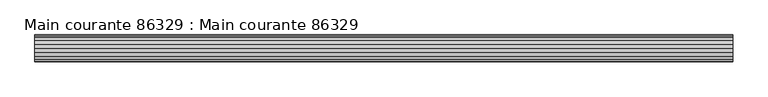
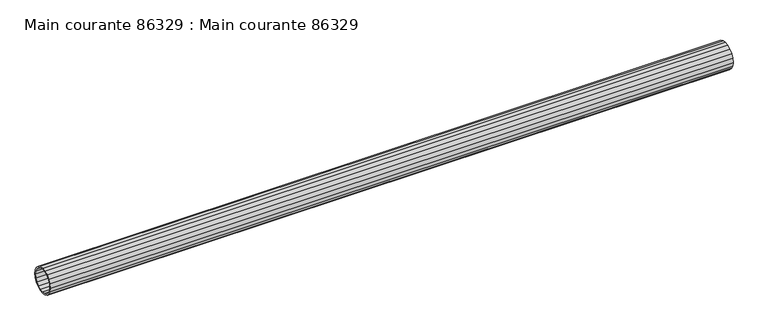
"""IFC4 building model written with IfcOpenShell, lengths in millimetres: beam geometry, Main courante 86329 : Main courante 86329."""

from ifc_helpers import new_model, si_unit, frame, origin, place, context, project, spatial, polyline, outline, extrude, source, transform, mapped, element, save


def main_courante_86329_main_courante_86329_4c8f75e1(model_context):
    return source(origin(), model_context, "Body", "SweptSolid", [
        extrude(outline(polyline([(-24939.3127604, 8787.9680149), (-24931.85, 8789.15), (-24924.3872396, 8787.9680149), (-24917.6549862, 8784.5377604), (-24912.3122396, 8779.1950138), (-24908.8819851, 8772.4627604), (-24907.7, 8765.0), (-24908.8819851, 8757.5372396), (-24912.3122396, 8750.8049862), (-24917.6549862, 8745.4622396), (-24924.3872396, 8742.0319851), (-24931.85, 8740.85), (-24939.3127604, 8742.0319851), (-24946.0450138, 8745.4622396), (-24951.3877604, 8750.8049862), (-24954.8180149, 8757.5372396), (-24956.0, 8765.0), (-24954.8180149, 8772.4627604), (-24951.3877604, 8779.1950138), (-24946.0450138, 8784.5377604), (-24939.3127604, 8787.9680149)]), holes=[polyline([(-24953.5, 8765.0), (-24952.4403736, 8758.3097821), (-24949.3652179, 8752.2744493), (-24944.5755507, 8747.4847821), (-24938.5402179, 8744.4096264), (-24931.85, 8743.35), (-24925.1597821, 8744.4096264), (-24919.1244493, 8747.4847821), (-24914.3347821, 8752.2744493), (-24911.2596264, 8758.3097821), (-24910.2, 8765.0), (-24911.2596264, 8771.6902179), (-24914.3347821, 8777.7255507), (-24919.1244493, 8782.5152179), (-24925.1597821, 8785.5903736), (-24931.85, 8786.65), (-24938.5402179, 8785.5903736), (-24944.5755507, 8782.5152179), (-24949.3652179, 8777.7255507), (-24952.4403736, 8771.6902179), (-24953.5, 8765.0)])]), frame((11539.2815707, 0.0, 0.0), z_axis=(1.0, 0.0, 0.0), x_axis=(0.0, 1.0, 0.0)), (0.0, 0.0, 1.0), 1249.7184292),
    ])


if __name__ == "__main__":
    model = new_model("IFC4")
    model_context = context("Model", 3, world=origin())
    ifc_project = project(units=[si_unit("LENGTHUNIT", "METRE", prefix="MILLI")], contexts=[model_context])
    site = spatial("IfcSite", under=ifc_project)
    building = spatial("IfcBuilding", under=site)
    placement = place(None, origin())
    main_courante_86329_main_courante_86329_shape = main_courante_86329_main_courante_86329_4c8f75e1(model_context)
    element("IfcBeam", 1, ObjectType="Main courante 86329 : Main courante 86329", at=placement, inside=building, context=model_context, shape_type="MappedRepresentation", body=[
        mapped(main_courante_86329_main_courante_86329_shape, transform((0.0, 0.0, 0.0), x_axis=(1.0, 0.0, 0.0), y_axis=(0.0, 1.0, 0.0), z_axis=(0.0, 0.0, 1.0))),
    ])
    save(model, "model.ifc")
